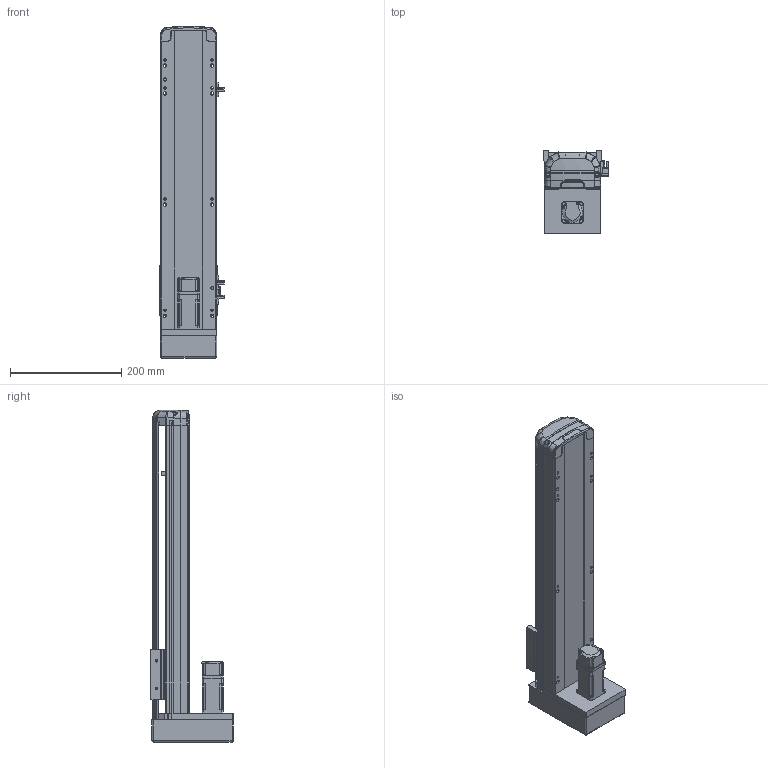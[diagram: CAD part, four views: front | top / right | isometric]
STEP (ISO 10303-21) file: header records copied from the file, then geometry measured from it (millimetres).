
FILE_DESCRIPTION (( 'STEP AP214' ), '1' );
FILE_NAME ('RTH10-XX-350-M-M10-C4.STEP', '2025-10-25T05:44:16', ( 'Microsoft' ), ( 'Microsoft' ), 'SwSTEP 2.0', 'SolidWorks 2018', '' );
FILE_SCHEMA (( 'AUTOMOTIVE_DESIGN' ));
Length unit declared in the file: millimetre
Products named in the file (10): N_OMRON EE-SX672 传感器^RTH10-XX-100-M-M10-C4; N_P10^RTH10-XX-100-M-M10-C4; N_RTH12-M-007P-奻裔^RTH10-XX-100-M-M10-C4; N_RTH13-L-012覜茼え俋离^RTH10-XX-100-M-M10-C4; N_RTH12-GY-004-賑釱^RTH10-XX-100-M-M10-C4; N_RTH12-GY-001P^RTH10-XX-100-M-M10-C4; RTH10-XX-350-M-M10-C4; N_RTH12-M-008-萇儂啣^RTH10-XX-100-M-M10-C4; N_RTH12-M-018-裔赽^RTH10-XX-100-M-M10-C4; N_RTH12-M-011P-臏倰第菁釱^RTH10-XX-100-M-M10-C4
Assembly tree (11 placements, depth 2):
  RTH10-XX-350-M-M10-C4
    N_RTH12-M-011P-臏倰第菁釱^RTH10-XX-100-M-M10-C4
    N_RTH13-L-012覜茼え俋离^RTH10-XX-100-M-M10-C4
    N_OMRON EE-SX672 传感器^RTH10-XX-100-M-M10-C4  x3
    N_P10^RTH10-XX-100-M-M10-C4
    N_RTH12-M-007P-奻裔^RTH10-XX-100-M-M10-C4
    N_RTH12-M-008-萇儂啣^RTH10-XX-100-M-M10-C4
    N_RTH12-M-018-裔赽^RTH10-XX-100-M-M10-C4
    N_RTH12-GY-004-賑釱^RTH10-XX-100-M-M10-C4
    N_RTH12-GY-001P^RTH10-XX-100-M-M10-C4
Bounding box: 116.5 x 149 x 597.31 mm (x, y, z)
Volume: 3024450.8 mm3; surface area: 464372.2 mm2
Topology: 10 solids, 12 shells, 1913 faces, 5329 edges, 3495 vertices
Faces by surface type: plane 951, bspline 472, cylinder 455, cone 29, sphere 4, torus 2
Entity records: 57365 total; most frequent: CARTESIAN_POINT 22947, ORIENTED_EDGE 7730, DIRECTION 5907, EDGE_CURVE 3871, VERTEX_POINT 2539, LINE 2045, VECTOR 2045, AXIS2_PLACEMENT_3D 1931
